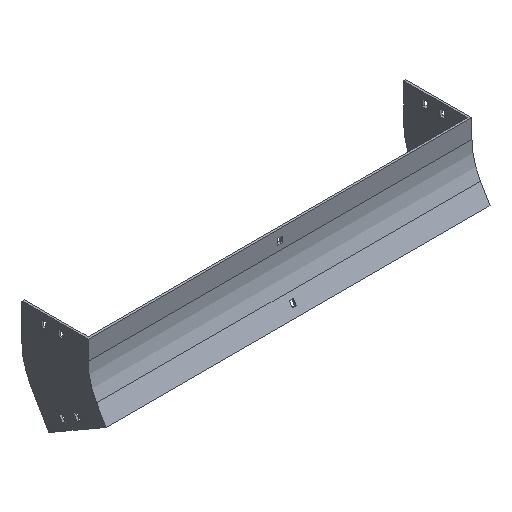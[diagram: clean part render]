
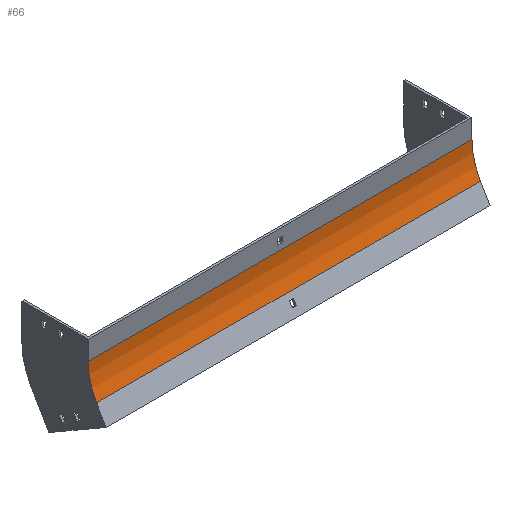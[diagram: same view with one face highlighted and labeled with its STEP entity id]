
A CAD part, isometric view. The second image highlights one B-rep face of the part: STEP entity #66.
In plain terms, the highlighted cylindrical face has radius 100 mm (diameter 200 mm), a partial arc.
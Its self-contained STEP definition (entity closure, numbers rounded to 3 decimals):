
#66 = ADVANCED_FACE ( 'NONE', ( #231 ), #1003, .F. ) ;
#151 = DIRECTION ( 'NONE',  ( -1., 0., 0. ) ) ;
#177 = CARTESIAN_POINT ( 'NONE',  ( 302., 0., -30. ) ) ;
#190 = CARTESIAN_POINT ( 'NONE',  ( 302., -13.397, -80. ) ) ;
#231 = FACE_OUTER_BOUND ( 'NONE', #1393, .T. ) ;
#253 = CARTESIAN_POINT ( 'NONE',  ( 302., -100., -30. ) ) ;
#306 = VERTEX_POINT ( 'NONE', #190 ) ;
#309 = CARTESIAN_POINT ( 'NONE',  ( 302., 0., -30. ) ) ;
#412 = CARTESIAN_POINT ( 'NONE',  ( -302., -100., -30. ) ) ;
#413 = DIRECTION ( 'NONE',  ( 0., 0., 1. ) ) ;
#448 = VECTOR ( 'NONE', #1592, 1000. ) ;
#511 = DIRECTION ( 'NONE',  ( -1., 0., 0. ) ) ;
#519 = DIRECTION ( 'NONE',  ( 0., 0., 1. ) ) ;
#655 = CARTESIAN_POINT ( 'NONE',  ( 302., -100., -30. ) ) ;
#662 = AXIS2_PLACEMENT_3D ( 'NONE', #253, #1720, #413 ) ;
#758 = AXIS2_PLACEMENT_3D ( 'NONE', #655, #511, #519 ) ;
#851 = VERTEX_POINT ( 'NONE', #1176 ) ;
#897 = LINE ( 'NONE', #309, #1635 ) ;
#950 = ORIENTED_EDGE ( 'NONE', *, *, #1428, .T. ) ;
#1001 = VERTEX_POINT ( 'NONE', #1802 ) ;
#1003 = CYLINDRICAL_SURFACE ( 'NONE', #662, 100. ) ;
#1135 = CARTESIAN_POINT ( 'NONE',  ( 302., -13.397, -80. ) ) ;
#1164 = EDGE_CURVE ( 'NONE', #1852, #306, #1511, .T. ) ;
#1176 = CARTESIAN_POINT ( 'NONE',  ( -302., 0., -30. ) ) ;
#1208 = EDGE_CURVE ( 'NONE', #851, #1001, #1926, .T. ) ;
#1295 = EDGE_CURVE ( 'NONE', #306, #1001, #1891, .T. ) ;
#1393 = EDGE_LOOP ( 'NONE', ( #1767, #1943, #1449, #950 ) ) ;
#1428 = EDGE_CURVE ( 'NONE', #1852, #851, #897, .T. ) ;
#1449 = ORIENTED_EDGE ( 'NONE', *, *, #1164, .F. ) ;
#1511 = CIRCLE ( 'NONE', #758, 100. ) ;
#1592 = DIRECTION ( 'NONE',  ( -1., 0., 0. ) ) ;
#1623 = DIRECTION ( 'NONE',  ( -1., 0., 0. ) ) ;
#1635 = VECTOR ( 'NONE', #151, 1000. ) ;
#1720 = DIRECTION ( 'NONE',  ( -1., 0., 0. ) ) ;
#1746 = DIRECTION ( 'NONE',  ( 0., 0., 1. ) ) ;
#1767 = ORIENTED_EDGE ( 'NONE', *, *, #1208, .T. ) ;
#1802 = CARTESIAN_POINT ( 'NONE',  ( -302., -13.397, -80. ) ) ;
#1818 = AXIS2_PLACEMENT_3D ( 'NONE', #412, #1623, #1746 ) ;
#1852 = VERTEX_POINT ( 'NONE', #177 ) ;
#1891 = LINE ( 'NONE', #1135, #448 ) ;
#1926 = CIRCLE ( 'NONE', #1818, 100. ) ;
#1943 = ORIENTED_EDGE ( 'NONE', *, *, #1295, .F. ) ;
